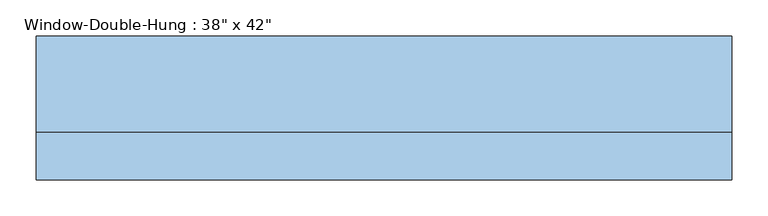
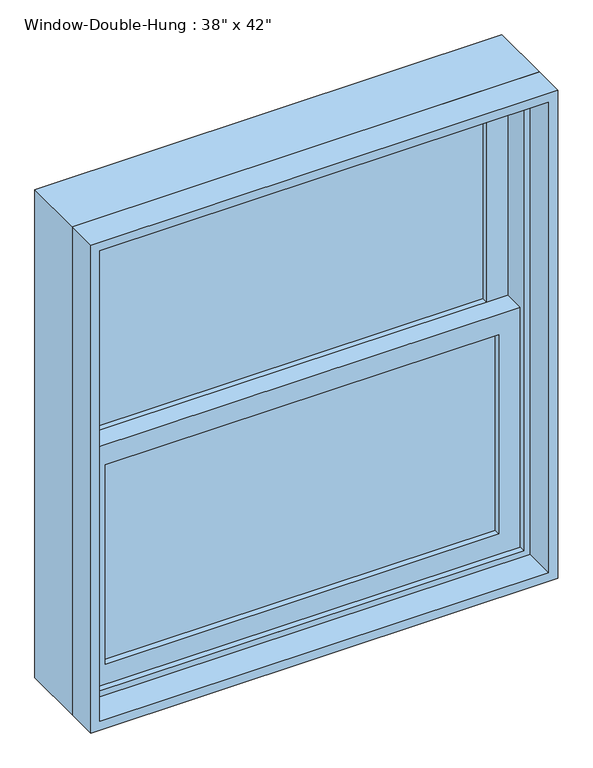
"""IFC4 building model written with IfcOpenShell, lengths in millimetres: window geometry."""

from ifc_helpers import new_model, si_unit, frame, origin, place, context, project, spatial, polyline, outline, extrude, source, transform, mapped, element, save


def window_ea18a626(model_context):
    return source(origin(), model_context, "Body", "SweptSolid", [
        extrude(outline(polyline([(406.4, 20.6375), (406.4, 14.2875), (-406.4, 14.2875), (-406.4, 20.6375), (406.4, 20.6375)])), frame((0.0, 0.0, 990.6), z_axis=(0.0, 0.0, 1.0), x_axis=(1.0, 0.0, 0.0)), (0.0, 0.0, 1.0), 434.975),
        extrude(outline(polyline([(-406.4, 7.9375), (406.4, 7.9375), (406.4, 1.5875), (-406.4, 1.5875), (-406.4, 7.9375)])), frame((0.0, 0.0, 990.6), z_axis=(0.0, 0.0, 1.0), x_axis=(1.0, 0.0, 0.0)), (0.0, 0.0, 1.0), 434.975),
        extrude(outline(polyline([(406.4, 65.0875), (406.4, 58.7375), (-406.4, 58.7375), (-406.4, 65.0875), (406.4, 65.0875)])), frame((0.0, 0.0, 1470.025), z_axis=(0.0, 0.0, 1.0), x_axis=(1.0, 0.0, 0.0)), (0.0, 0.0, 1.0), 434.975),
        extrude(outline(polyline([(-406.4, 52.3875), (406.4, 52.3875), (406.4, 46.0375), (-406.4, 46.0375), (-406.4, 52.3875)])), frame((0.0, 0.0, 1470.025), z_axis=(0.0, 0.0, 1.0), x_axis=(1.0, 0.0, 0.0)), (0.0, 0.0, 1.0), 434.975),
        extrude(outline(polyline([(1470.025, -450.85), (946.15, -450.85), (946.15, 450.85), (1470.025, 450.85), (1470.025, -450.85)]), holes=[polyline([(1425.575, 406.4), (990.6, 406.4), (990.6, -406.4), (1425.575, -406.4), (1425.575, 406.4)])]), frame((0.0, -11.1125, 0.0), z_axis=(0.0, 1.0, 0.0), x_axis=(0.0, 0.0, 1.0)), (0.0, 0.0, 1.0), 44.45),
        extrude(outline(polyline([(1949.45, -450.85), (1425.575, -450.85), (1425.575, 450.85), (1949.45, 450.85), (1949.45, -450.85)]), holes=[polyline([(1905.0, 406.4), (1470.025, 406.4), (1470.025, -406.4), (1905.0, -406.4), (1905.0, 406.4)])]), frame((0.0, 33.3375, 0.0), z_axis=(0.0, 1.0, 0.0), x_axis=(0.0, 0.0, 1.0)), (0.0, 0.0, 1.0), 44.45),
        extrude(outline(polyline([(1981.2, -482.6), (914.4, -482.6), (914.4, 482.6), (1981.2, 482.6), (1981.2, -482.6)]), holes=[polyline([(1949.45, 450.85), (946.15, 450.85), (946.15, -450.85), (1949.45, -450.85), (1949.45, 450.85)])]), frame((0.0, -23.8125, 0.0), z_axis=(0.0, 1.0, 0.0), x_axis=(0.0, 0.0, 1.0)), (0.0, 0.0, 1.0), 133.35),
        extrude(outline(polyline([(1981.2, 482.6), (1981.2, -482.6), (914.4, -482.6), (914.4, 482.6), (1981.2, 482.6)]), holes=[polyline([(1962.15, 463.55), (933.45, 463.55), (933.45, -463.55), (1962.15, -463.55), (1962.15, 463.55)])]), frame((0.0, -90.4875, 0.0), z_axis=(0.0, 1.0, 0.0), x_axis=(0.0, 0.0, 1.0)), (0.0, 0.0, 1.0), 66.675),
    ])


if __name__ == "__main__":
    model = new_model("IFC4")
    model_context = context("Model", 3, world=origin())
    ifc_project = project(units=[si_unit("LENGTHUNIT", "METRE", prefix="MILLI")], contexts=[model_context])
    site = spatial("IfcSite", under=ifc_project)
    building = spatial("IfcBuilding", under=site)
    placement = place(None, origin())
    window_shape = window_ea18a626(model_context)
    element("IfcWindow", 1, ObjectType="Window-Double-Hung : 38\" x 42\"", at=placement, inside=building, context=model_context, shape_type="MappedRepresentation", body=[
        mapped(window_shape, transform((0.0, 0.0, 0.0), x_axis=(1.0, 0.0, 0.0), y_axis=(0.0, 1.0, 0.0), z_axis=(0.0, 0.0, 1.0))),
    ])
    save(model, "model.ifc")
